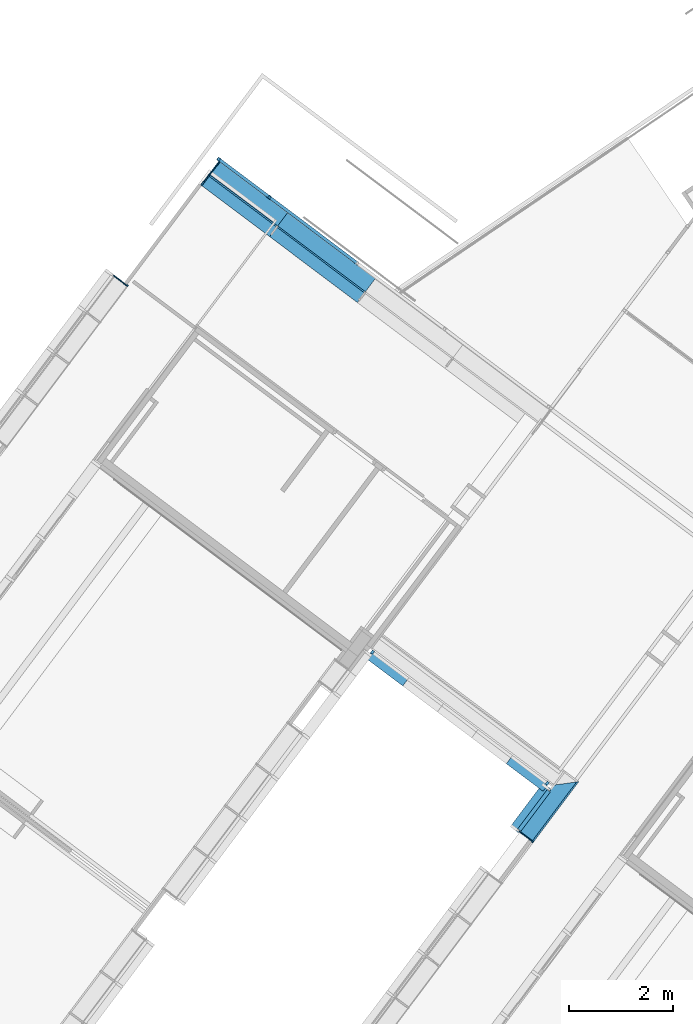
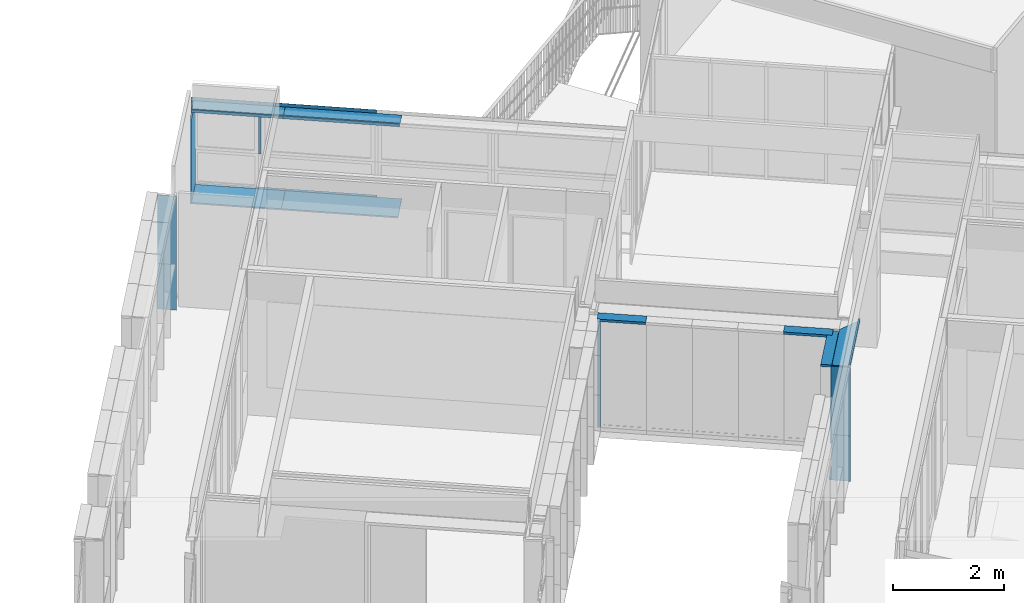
# One storey, part 62 of 243: 22 members, 6 elements without a shape of their own.
"""IFC2X3 building model written with IfcOpenShell, lengths in metres."""

from ifc_helpers import new_model, entity, si_unit, converted_unit, derived_unit, direction, frame, frame_2d, origin, origin_2d_with_axis, place, context, subcontext, project, spatial, polyline, rectangle, outline, extrude, clip, halfspace, source, transform, mapped, material, type_object, type_shapes, element, aggregate, save


model = new_model("IFC2X3")

# Units and contexts
model_context = context("Model", 3, precision=1e-05, world=origin(), true_north=direction((6.123031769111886e-17, 1.0)))
body_context = subcontext(model_context, "Body", "Model", "MODEL_VIEW")
ifc_project = project(units=[si_unit("LENGTHUNIT", "METRE"), si_unit("AREAUNIT", "SQUARE_METRE"), si_unit("VOLUMEUNIT", "CUBIC_METRE"), converted_unit("PLANEANGLEUNIT", "DEGREE", entity("IfcRatioMeasure", 0.017453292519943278), si_unit("PLANEANGLEUNIT", "RADIAN"), dimensions=[0, 0, 0, 0, 0, 0, 0]), si_unit("MASSUNIT", "GRAM", prefix="KILO"), derived_unit("MASSDENSITYUNIT", [(si_unit("MASSUNIT", "GRAM", prefix="KILO"), 1), (si_unit("LENGTHUNIT", "METRE"), -3)]), derived_unit("IONCONCENTRATIONUNIT", [(si_unit("MASSUNIT", "GRAM", prefix="KILO"), 1), (si_unit("LENGTHUNIT", "METRE"), -3)]), derived_unit("MOMENTOFINERTIAUNIT", [(si_unit("LENGTHUNIT", "METRE"), 4)]), si_unit("TIMEUNIT", "SECOND"), si_unit("FREQUENCYUNIT", "HERTZ"), si_unit("THERMODYNAMICTEMPERATUREUNIT", "DEGREE_CELSIUS"), derived_unit("THERMALTRANSMITTANCEUNIT", [(si_unit("MASSUNIT", "GRAM", prefix="KILO"), 1), (si_unit("THERMODYNAMICTEMPERATUREUNIT", "KELVIN"), -1), (si_unit("TIMEUNIT", "SECOND"), -3)]), derived_unit("THERMALCONDUCTANCEUNIT", [(si_unit("MASSUNIT", "GRAM", prefix="KILO"), 1), (si_unit("THERMODYNAMICTEMPERATUREUNIT", "KELVIN"), -1), (si_unit("TIMEUNIT", "SECOND"), -3), (si_unit("LENGTHUNIT", "METRE"), 1)]), derived_unit("VOLUMETRICFLOWRATEUNIT", [(si_unit("LENGTHUNIT", "METRE"), 3), (si_unit("TIMEUNIT", "SECOND"), -1)]), derived_unit("MASSFLOWRATEUNIT", [(si_unit("MASSUNIT", "GRAM", prefix="KILO"), 1), (si_unit("TIMEUNIT", "SECOND"), -1)]), derived_unit("ROTATIONALFREQUENCYUNIT", [(si_unit("TIMEUNIT", "SECOND"), -1)]), si_unit("ELECTRICCURRENTUNIT", "AMPERE"), si_unit("ELECTRICVOLTAGEUNIT", "VOLT"), si_unit("POWERUNIT", "WATT"), si_unit("FORCEUNIT", "NEWTON", prefix="KILO"), si_unit("ILLUMINANCEUNIT", "LUX"), si_unit("LUMINOUSFLUXUNIT", "LUMEN"), si_unit("LUMINOUSINTENSITYUNIT", "CANDELA"), derived_unit("USERDEFINED", [(si_unit("MASSUNIT", "GRAM", prefix="KILO"), -1), (si_unit("LENGTHUNIT", "METRE"), -2), (si_unit("TIMEUNIT", "SECOND"), 3), (si_unit("LUMINOUSFLUXUNIT", "LUMEN"), 1)]), derived_unit("USERDEFINED", [(si_unit("MASSUNIT", "GRAM", prefix="KILO"), 1), (si_unit("TIMEUNIT", "SECOND"), -3), (si_unit("LENGTHUNIT", "METRE"), 3), (si_unit("ELECTRICCURRENTUNIT", "AMPERE"), -2)]), derived_unit("SOUNDPOWERUNIT", [(si_unit("MASSUNIT", "GRAM", prefix="KILO"), 1), (si_unit("TIMEUNIT", "SECOND"), -3), (si_unit("LENGTHUNIT", "METRE"), 2)]), derived_unit("SOUNDPRESSUREUNIT", [(si_unit("MASSUNIT", "GRAM", prefix="KILO"), 1), (si_unit("LENGTHUNIT", "METRE"), -1), (si_unit("TIMEUNIT", "SECOND"), -2)]), derived_unit("LINEARVELOCITYUNIT", [(si_unit("LENGTHUNIT", "METRE"), 1), (si_unit("TIMEUNIT", "SECOND"), -1)]), si_unit("PRESSUREUNIT", "PASCAL"), derived_unit("USERDEFINED", [(si_unit("MASSUNIT", "GRAM", prefix="KILO"), 1), (si_unit("LENGTHUNIT", "METRE"), -2), (si_unit("TIMEUNIT", "SECOND"), -2)]), derived_unit("LINEARFORCEUNIT", [(si_unit("MASSUNIT", "GRAM", prefix="KILO"), 1), (si_unit("TIMEUNIT", "SECOND"), -2)]), derived_unit("PLANARFORCEUNIT", [(si_unit("MASSUNIT", "GRAM", prefix="KILO"), 1), (si_unit("LENGTHUNIT", "METRE"), -1), (si_unit("TIMEUNIT", "SECOND"), -2)]), derived_unit("SPECIFICHEATCAPACITYUNIT", [(si_unit("THERMODYNAMICTEMPERATUREUNIT", "KELVIN"), -1), (si_unit("LENGTHUNIT", "METRE"), 2), (si_unit("TIMEUNIT", "SECOND"), -2)]), derived_unit("HEATINGVALUEUNIT", [(si_unit("LENGTHUNIT", "METRE"), 2), (si_unit("TIMEUNIT", "SECOND"), -2)]), derived_unit("VAPORPERMEABILITYUNIT", [(si_unit("LENGTHUNIT", "METRE"), -1), (si_unit("TIMEUNIT", "SECOND"), 1)]), derived_unit("DYNAMICVISCOSITYUNIT", [(si_unit("MASSUNIT", "GRAM", prefix="KILO"), 1), (si_unit("TIMEUNIT", "SECOND"), -1), (si_unit("LENGTHUNIT", "METRE"), -1)]), derived_unit("THERMALEXPANSIONCOEFFICIENTUNIT", [(si_unit("THERMODYNAMICTEMPERATUREUNIT", "KELVIN"), -1)]), derived_unit("MODULUSOFELASTICITYUNIT", [(si_unit("MASSUNIT", "GRAM", prefix="KILO"), 1), (si_unit("LENGTHUNIT", "METRE"), -1), (si_unit("TIMEUNIT", "SECOND"), -2)]), derived_unit("ISOTHERMALMOISTURECAPACITYUNIT", [(si_unit("LENGTHUNIT", "METRE"), 3), (si_unit("MASSUNIT", "GRAM", prefix="KILO"), -1)]), derived_unit("MOISTUREDIFFUSIVITYUNIT", [(si_unit("TIMEUNIT", "SECOND"), -1), (si_unit("LENGTHUNIT", "METRE"), 2)])], contexts=[model_context])

# Site, building, storey
site_placement = place(None, frame((0.0, 0.0, 235.0), z_axis=(0.0, 0.0, 1.0), x_axis=(-0.7996477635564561, 0.6004693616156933, 0.0)))
site = spatial("IfcSite", under=ifc_project, at=site_placement, Name="Default", CompositionType="ELEMENT")
building_placement = place(site_placement, origin())
building = spatial("IfcBuilding", under=site, at=building_placement, CompositionType="ELEMENT")
storey_placement = place(building_placement, origin())
storey = spatial("IfcBuildingStorey", under=building, at=storey_placement, Name="P0- Escola", CompositionType="ELEMENT", Elevation=0.0)

# Curtain wall, members
curtain_wall_type_1 = type_object("IfcCurtainWallType", Name="Muro cortina:MC- INT- k2", PredefinedType="NOTDEFINED")
curtain_wall_1_placement = place(storey_placement, origin())
curtain_wall_1 = element("IfcCurtainWall", 1, at=curtain_wall_1_placement, inside=storey, type_object=curtain_wall_type_1, Name="Muro cortina:MC- INT- k2", ObjectType="Muro cortina:MC- INT- k2")
ifc_material_1 = material(Name="_Fusta massisa- T1")
member_type_1 = type_object("IfcMemberType", Name="Montante rectangular:MC- Fusta- 35x3 cm- Pati aules- Remat superior", PredefinedType="MULLION", material=ifc_material_1)
shared_shape_1 = source(origin(), body_context, "Body", "SweptSolid", [
    clip(extrude(outline(polyline([(-0.12166666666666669, -0.02666666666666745), (0.21333333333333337, -0.02666666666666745), (0.21333333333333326, -0.006666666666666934), (-0.09166666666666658, -0.006666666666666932), (-0.0916666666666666, 0.03333333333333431), (-0.12166666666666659, 0.03333333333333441), (-0.12166666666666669, -0.02666666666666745)])), frame((-0.033333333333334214, -0.026666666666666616, -1.3699981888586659), z_axis=(0.0, 0.0, 1.0), x_axis=(0.0, -1.0, 0.0)), (0.0, 0.0, 1.0), 1.4649981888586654), halfspace(frame((0.3048, 0.0, 0.0), z_axis=(0.0, -0.7071067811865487, 0.7071067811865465), x_axis=(0.0, -0.7071067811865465, -0.7071067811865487)), False)),
])
type_shapes(member_type_1, [shared_shape_1])
member_1_placement = place(curtain_wall_1_placement, frame((61.74514768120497, -36.785189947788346, 2.565), z_axis=(0.0, -1.0, 0.0), x_axis=(0.0, 0.0, 1.0)))
member_1 = element("IfcMember", 2, at=member_1_placement, type_object=member_type_1, material=ifc_material_1, Name="Montante rectangular:MC- Fusta- 35x3 cm- Pati aules- Remat superior", ObjectType="Montante rectangular:MC- Fusta- 35x3 cm- Pati aules- Remat superior", context=body_context, shape_type="MappedRepresentation", body=[
    mapped(shared_shape_1, transform((0.0, 0.0, 0.0), scale=1.0)),
])
member_type_2 = type_object("IfcMemberType", Name="Montante rectangular:MC- Fusta- 35x3 cm- Pati aules- Remat esquerra", PredefinedType="MULLION", material=ifc_material_1)
shared_shape_2 = source(origin(), body_context, "Body", "SweptSolid", [
    extrude(outline(polyline([(-0.12500000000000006, -0.013333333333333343), (-0.09500000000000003, -0.013333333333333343), (-0.09499999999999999, -0.0033333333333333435), (0.22000000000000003, -0.003333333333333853), (0.22000000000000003, 0.016666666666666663), (-0.12500000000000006, 0.01666666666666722), (-0.12500000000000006, -0.013333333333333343)])), frame((-0.00166666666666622, -0.03000000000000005, -1.0), z_axis=(0.0, 0.0, 1.0), x_axis=(0.0, -1.0, 0.0)), (0.0, 0.0, 1.0), 1.0),
])
type_shapes(member_type_2, [shared_shape_2])
member_2_placement = place(curtain_wall_1_placement, frame((61.74514768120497, -35.41519175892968, 0.0), z_axis=(0.0, 0.0, -1.0), x_axis=(0.0, -1.0, 0.0)))
member_2 = element("IfcMember", 3, at=member_2_placement, type_object=member_type_2, material=ifc_material_1, Name="Montante rectangular:MC- Fusta- 35x3 cm- Pati aules- Remat esquerra", ObjectType="Montante rectangular:MC- Fusta- 35x3 cm- Pati aules- Remat esquerra", context=body_context, shape_type="MappedRepresentation", body=[
    mapped(shared_shape_2, transform((0.0, 0.0, 0.0), scale=1.0)),
])
member_type_3 = type_object("IfcMemberType", Name="Montante rectangular:MC- Fusta- 35x3 cm- Pati aules- Remat esquerra", PredefinedType="MULLION", material=ifc_material_1)
shared_shape_3 = source(origin(), body_context, "Body", "SweptSolid", [
    extrude(outline(polyline([(-0.12500000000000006, -0.013333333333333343), (-0.09500000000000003, -0.013333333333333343), (-0.09499999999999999, -0.0033333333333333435), (0.22000000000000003, -0.003333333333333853), (0.22000000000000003, 0.016666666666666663), (-0.12500000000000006, 0.01666666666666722), (-0.12500000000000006, -0.013333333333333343)])), frame((-0.00166666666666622, -0.03000000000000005, -1.504999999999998), z_axis=(0.0, 0.0, 1.0), x_axis=(0.0, -1.0, 0.0)), (0.0, 0.0, 1.0), 1.504999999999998),
])
type_shapes(member_type_3, [shared_shape_3])
member_3_placement = place(curtain_wall_1_placement, frame((61.74514768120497, -35.41519175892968, 1.0), z_axis=(0.0, 0.0, -1.0), x_axis=(0.0, -1.0, 0.0)))
member_3 = element("IfcMember", 4, at=member_3_placement, type_object=member_type_3, material=ifc_material_1, Name="Montante rectangular:MC- Fusta- 35x3 cm- Pati aules- Remat esquerra", ObjectType="Montante rectangular:MC- Fusta- 35x3 cm- Pati aules- Remat esquerra", context=body_context, shape_type="MappedRepresentation", body=[
    mapped(shared_shape_3, transform((0.0, 0.0, 0.0), scale=1.0)),
])
aggregate(curtain_wall_1, [member_1, member_2, member_3])

curtain_wall_2_placement = place(storey_placement, origin())
curtain_wall_2 = element("IfcCurtainWall", 5, at=curtain_wall_2_placement, inside=storey, type_object=curtain_wall_type_1, Name="Muro cortina:MC- INT- k2", ObjectType="Muro cortina:MC- INT- k2")
member_type_4 = type_object("IfcMemberType", Name="Montante rectangular:MC- Fusta- 35x3 cm- Pati aules- Remat dreta", PredefinedType="MULLION", material=ifc_material_1)
shared_shape_4 = source(origin(), body_context, "Body", "SweptSolid", [
    extrude(outline(polyline([(-0.12500000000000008, -0.01666666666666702), (0.22, -0.01666666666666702), (0.22000000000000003, 0.003333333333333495), (-0.09499999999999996, 0.003333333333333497), (-0.09499999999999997, 0.013333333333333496), (-0.12500000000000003, 0.013333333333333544), (-0.12500000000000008, -0.01666666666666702)])), frame((-0.013333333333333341, -0.03000000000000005, -1.504999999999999), z_axis=(0.0, 0.0, 1.0), x_axis=(0.0, -1.0, 0.0)), (0.0, 0.0, 1.0), 1.504999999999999),
])
type_shapes(member_type_4, [shared_shape_4])
member_4_placement = place(curtain_wall_2_placement, frame((74.44514768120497, -39.31519175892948, 1.0), z_axis=(0.0, 0.0, -1.0), x_axis=(0.0, -1.0, 0.0)))
member_4 = element("IfcMember", 6, at=member_4_placement, type_object=member_type_4, material=ifc_material_1, Name="Montante rectangular:MC- Fusta- 35x3 cm- Pati aules- Remat dreta", ObjectType="Montante rectangular:MC- Fusta- 35x3 cm- Pati aules- Remat dreta", context=body_context, shape_type="MappedRepresentation", body=[
    mapped(shared_shape_4, transform((0.0, 0.0, 0.0), scale=1.0)),
])
member_type_5 = type_object("IfcMemberType", Name="Montante rectangular:MC- Fusta- 35x3 cm- Pati aules- Remat dreta", PredefinedType="MULLION", material=ifc_material_1)
shared_shape_5 = source(origin(), body_context, "Body", "SweptSolid", [
    extrude(outline(polyline([(-0.12500000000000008, -0.01666666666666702), (0.22, -0.01666666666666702), (0.22000000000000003, 0.003333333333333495), (-0.09499999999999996, 0.003333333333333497), (-0.09499999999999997, 0.013333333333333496), (-0.12500000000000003, 0.013333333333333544), (-0.12500000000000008, -0.01666666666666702)])), frame((-0.013333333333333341, -0.03000000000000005, -1.0), z_axis=(0.0, 0.0, 1.0), x_axis=(0.0, -1.0, 0.0)), (0.0, 0.0, 1.0), 1.0),
])
type_shapes(member_type_5, [shared_shape_5])
member_5_placement = place(curtain_wall_2_placement, frame((74.44514768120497, -39.31519175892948, 0.0), z_axis=(0.0, 0.0, -1.0), x_axis=(0.0, -1.0, 0.0)))
member_5 = element("IfcMember", 7, at=member_5_placement, type_object=member_type_5, material=ifc_material_1, Name="Montante rectangular:MC- Fusta- 35x3 cm- Pati aules- Remat dreta", ObjectType="Montante rectangular:MC- Fusta- 35x3 cm- Pati aules- Remat dreta", context=body_context, shape_type="MappedRepresentation", body=[
    mapped(shared_shape_5, transform((0.0, 0.0, 0.0), scale=1.0)),
])
aggregate(curtain_wall_2, [member_4, member_5])

curtain_wall_type_2 = type_object("IfcCurtainWallType", Name="Muro cortina:MC- EXT- MC5", PredefinedType="NOTDEFINED")
curtain_wall_3_placement = place(storey_placement, origin())
curtain_wall_3 = element("IfcCurtainWall", 8, at=curtain_wall_3_placement, inside=storey, type_object=curtain_wall_type_2, Name="Muro cortina:MC- EXT- MC5", ObjectType="Muro cortina:MC- EXT- MC5")
ifc_material_2 = material(Name="_Alumini- T1- Perfil")
member_type_6 = type_object("IfcMemberType", Name="Montante rectangular:MC- Alu- 140x52,5 cm- Fa patis- Superior", PredefinedType="MULLION", material=ifc_material_2)
shared_shape_6 = source(origin(), body_context, "Body", "SweptSolid", [
    extrude(outline(polyline([(-0.026333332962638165, -0.021249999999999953), (0.11366666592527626, -0.021249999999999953), (0.11366666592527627, 0.031250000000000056), (-0.08733333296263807, 0.03125000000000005), (-0.0873333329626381, -0.010000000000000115), (-0.026333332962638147, -0.010000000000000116), (-0.026333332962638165, -0.021249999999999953)])), frame((-0.031250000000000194, -0.02733333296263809, -1.0524481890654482), z_axis=(0.0, 0.0, 1.0), x_axis=(0.0, -1.0, 0.0)), (0.0, 0.0, 1.0), 1.0524481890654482),
])
type_shapes(member_type_6, [shared_shape_6])
member_6_placement = place(curtain_wall_3_placement, frame((62.04514768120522, -36.44138994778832, 2.545), z_axis=(0.0, -1.0, 0.0), x_axis=(0.0, 0.0, 1.0)))
member_6 = element("IfcMember", 9, at=member_6_placement, type_object=member_type_6, material=ifc_material_2, Name="Montante rectangular:MC- Alu- 140x52,5 cm- Fa patis- Superior", ObjectType="Montante rectangular:MC- Alu- 140x52,5 cm- Fa patis- Superior", context=body_context, shape_type="MappedRepresentation", body=[
    mapped(shared_shape_6, transform((0.0, 0.0, 0.0), scale=1.0)),
])
member_type_7 = type_object("IfcMemberType", Name="Montante rectangular:MC- Alu- 140x52,5 cm- Fa patis- inferior porta", PredefinedType="MULLION", material=ifc_material_2)
shared_shape_7 = source(origin(), body_context, "Body", "SweptSolid", [
    extrude(rectangle(XDim=0.07629999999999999, YDim=0.04, at=origin_2d_with_axis()), frame((-0.020000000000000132, 0.03815000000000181, -0.9474481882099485), z_axis=(0.0, 0.0, 1.0), x_axis=(0.0, -1.0, 0.0)), (0.0, 0.0, 1.0), 0.947448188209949),
])
type_shapes(member_type_7, [shared_shape_7])
member_7_placement = place(curtain_wall_3_placement, frame((62.04514768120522, -35.44144175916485, -0.02), z_axis=(0.0, 1.0, 0.0), x_axis=(0.0, 0.0, -1.0)))
member_7 = element("IfcMember", 10, at=member_7_placement, type_object=member_type_7, material=ifc_material_2, Name="Montante rectangular:MC- Alu- 140x52,5 cm- Fa patis- inferior porta", ObjectType="Montante rectangular:MC- Alu- 140x52,5 cm- Fa patis- inferior porta", context=body_context, shape_type="MappedRepresentation", body=[
    mapped(shared_shape_7, transform((0.0, 0.0, 0.0), scale=1.0)),
])
aggregate(curtain_wall_3, [member_6, member_7])

curtain_wall_type_3 = type_object("IfcCurtainWallType", Name="Muro cortina:MC- EXT- MC6", PredefinedType="NOTDEFINED")
curtain_wall_4_placement = place(storey_placement, origin())
curtain_wall_4 = element("IfcCurtainWall", 11, at=curtain_wall_4_placement, inside=storey, type_object=curtain_wall_type_3, Name="Muro cortina:MC- EXT- MC6", ObjectType="Muro cortina:MC- EXT- MC6")
member_type_8 = type_object("IfcMemberType", Name="Montante rectangular:MC- Alu- 140x52,5 cm- Fa pista- Superior", PredefinedType="MULLION", material=ifc_material_2)
shared_shape_8 = source(origin(), body_context, "Body", "SweptSolid", [
    extrude(outline(polyline([(-0.03933333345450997, -0.04916666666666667), (0.02066666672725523, -0.04916666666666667), (0.020666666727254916, 0.048333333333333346), (0.018666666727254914, 0.04833333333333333), (0.018666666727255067, 0.00083333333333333), (-0.03933333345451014, 0.00083333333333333), (-0.03933333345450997, -0.04916666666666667)])), frame((-0.048333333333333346, -0.03933333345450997, -2.117000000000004), z_axis=(0.0, 0.0, 1.0), x_axis=(0.0, -1.0, 0.0)), (0.0, 0.0, 1.0), 2.117000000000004),
])
type_shapes(member_type_8, [shared_shape_8])
member_8_placement = place(curtain_wall_4_placement, frame((73.19855280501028, -42.340191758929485, 2.6000000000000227), z_axis=(1.0, 0.0, 0.0), x_axis=(0.0, 0.0, 1.0)))
member_8 = element("IfcMember", 12, at=member_8_placement, type_object=member_type_8, material=ifc_material_2, Name="Montante rectangular:MC- Alu- 140x52,5 cm- Fa pista- Superior", ObjectType="Montante rectangular:MC- Alu- 140x52,5 cm- Fa pista- Superior", context=body_context, shape_type="MappedRepresentation", body=[
    mapped(shared_shape_8, transform((0.0, 0.0, 0.0), scale=1.0)),
])
member_type_9 = type_object("IfcMemberType", Name="Montante rectangular:MC- Alu- 52x80 cm- Fa pista- inferior", PredefinedType="MULLION", material=ifc_material_2)
shared_shape_9 = source(origin(), body_context, "Body", "SweptSolid", [
    extrude(rectangle(XDim=0.06000000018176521, YDim=0.085, at=origin_2d_with_axis()), frame((-0.0425, -0.030000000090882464, -2.117000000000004), z_axis=(0.0, 0.0, 1.0), x_axis=(0.0, -1.0, 0.0)), (0.0, 0.0, 1.0), 2.117000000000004),
])
type_shapes(member_type_9, [shared_shape_9])
member_9_placement = place(curtain_wall_4_placement, frame((71.08155280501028, -42.340191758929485, 0.6000000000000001), z_axis=(-1.0, 0.0, 0.0), x_axis=(0.0, 0.0, -1.0)))
member_9 = element("IfcMember", 13, at=member_9_placement, type_object=member_type_9, material=ifc_material_2, Name="Montante rectangular:MC- Alu- 52x80 cm- Fa pista- inferior", ObjectType="Montante rectangular:MC- Alu- 52x80 cm- Fa pista- inferior", context=body_context, shape_type="MappedRepresentation", body=[
    mapped(shared_shape_9, transform((0.0, 0.0, 0.0), scale=1.0)),
])
member_type_10 = type_object("IfcMemberType", Name="Montante rectangular:MC- Alu- 50x60 cm- Fa pista- Centre", PredefinedType="MULLION", material=ifc_material_2)
shared_shape_10 = source(origin(), body_context, "Body", "SweptSolid", [
    extrude(rectangle(XDim=0.06000000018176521, YDim=0.05, at=frame_2d((3.469446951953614e-18, 0.0), x_axis=(1.0, 0.0))), frame((-0.025, -0.030000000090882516, -1.0475000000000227), z_axis=(0.0, 0.0, 1.0), x_axis=(0.0, -1.0, 0.0)), (0.0, 0.0, 1.0), 1.0475000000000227),
])
type_shapes(member_type_10, [shared_shape_10])
member_10_placement = place(curtain_wall_4_placement, frame((74.44514768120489, -42.34019175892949, 1.455), z_axis=(0.0, 0.0, -1.0), x_axis=(1.0, 0.0, 0.0)))
member_10 = element("IfcMember", 14, at=member_10_placement, type_object=member_type_10, material=ifc_material_2, Name="Montante rectangular:MC- Alu- 50x60 cm- Fa pista- Centre", ObjectType="Montante rectangular:MC- Alu- 50x60 cm- Fa pista- Centre", context=body_context, shape_type="MappedRepresentation", body=[
    mapped(shared_shape_10, transform((0.0, 0.0, 0.0), scale=1.0)),
])
member_type_11 = type_object("IfcMemberType", Name="Montante rectangular:MC- Alu- 50x60 cm- Fa pista- Centre", PredefinedType="MULLION", material=ifc_material_2)
shared_shape_11 = source(origin(), body_context, "Body", "SweptSolid", [
    extrude(rectangle(XDim=0.0600000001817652, YDim=0.05, at=frame_2d((8.673617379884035e-18, 0.0), x_axis=(1.0, 0.0))), frame((0.0, -0.030000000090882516, -1.0475000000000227), z_axis=(0.0, 0.0, 1.0), x_axis=(0.0, -1.0, 0.0)), (0.0, 0.0, 1.0), 1.0475000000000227),
])
type_shapes(member_type_11, [shared_shape_11])
member_11_placement = place(curtain_wall_4_placement, frame((73.19855280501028, -42.340191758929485, 1.455), z_axis=(0.0, 0.0, -1.0), x_axis=(1.0, 0.0, 0.0)))
member_11 = element("IfcMember", 15, at=member_11_placement, type_object=member_type_11, material=ifc_material_2, Name="Montante rectangular:MC- Alu- 50x60 cm- Fa pista- Centre", ObjectType="Montante rectangular:MC- Alu- 50x60 cm- Fa pista- Centre", context=body_context, shape_type="MappedRepresentation", body=[
    mapped(shared_shape_11, transform((0.0, 0.0, 0.0), scale=1.0)),
])
member_type_12 = type_object("IfcMemberType", Name="Montante rectangular:MC- Alu- 140x52,5 cm- Fa pista- Superior", PredefinedType="MULLION", material=ifc_material_2)
shared_shape_12 = source(origin(), body_context, "Body", "SweptSolid", [
    extrude(outline(polyline([(-0.03933333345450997, -0.04916666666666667), (0.02066666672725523, -0.04916666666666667), (0.020666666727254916, 0.048333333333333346), (0.018666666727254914, 0.04833333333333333), (0.018666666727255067, 0.00083333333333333), (-0.03933333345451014, 0.00083333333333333), (-0.03933333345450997, -0.04916666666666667)])), frame((-0.048333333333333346, -0.03933333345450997, -1.2465948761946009), z_axis=(0.0, 0.0, 1.0), x_axis=(0.0, -1.0, 0.0)), (0.0, 0.0, 1.0), 1.2465948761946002),
])
type_shapes(member_type_12, [shared_shape_12])
member_12_placement = place(curtain_wall_4_placement, frame((74.44514768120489, -42.34019175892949, 2.6000000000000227), z_axis=(1.0, 0.0, 0.0), x_axis=(0.0, 0.0, 1.0)))
member_12 = element("IfcMember", 16, at=member_12_placement, type_object=member_type_12, material=ifc_material_2, Name="Montante rectangular:MC- Alu- 140x52,5 cm- Fa pista- Superior", ObjectType="Montante rectangular:MC- Alu- 140x52,5 cm- Fa pista- Superior", context=body_context, shape_type="MappedRepresentation", body=[
    mapped(shared_shape_12, transform((0.0, 0.0, 0.0), scale=1.0)),
])
member_type_13 = type_object("IfcMemberType", Name="Montante rectangular:MC- Alu- 52x80 cm- Fa pista- inferior", PredefinedType="MULLION", material=ifc_material_2)
shared_shape_13 = source(origin(), body_context, "Body", "SweptSolid", [
    extrude(rectangle(XDim=0.06000000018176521, YDim=0.085, at=origin_2d_with_axis()), frame((-0.0425, -0.030000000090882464, -1.2465948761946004), z_axis=(0.0, 0.0, 1.0), x_axis=(0.0, -1.0, 0.0)), (0.0, 0.0, 1.0), 1.2465948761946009),
])
type_shapes(member_type_13, [shared_shape_13])
member_13_placement = place(curtain_wall_4_placement, frame((73.19855280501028, -42.340191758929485, 0.6000000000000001), z_axis=(-1.0, 0.0, 0.0), x_axis=(0.0, 0.0, -1.0)))
member_13 = element("IfcMember", 17, at=member_13_placement, type_object=member_type_13, material=ifc_material_2, Name="Montante rectangular:MC- Alu- 52x80 cm- Fa pista- inferior", ObjectType="Montante rectangular:MC- Alu- 52x80 cm- Fa pista- inferior", context=body_context, shape_type="MappedRepresentation", body=[
    mapped(shared_shape_13, transform((0.0, 0.0, 0.0), scale=1.0)),
])
aggregate(curtain_wall_4, [member_12, member_8, member_13, member_9, member_10, member_11])

curtain_wall_type_4 = type_object("IfcCurtainWallType", PredefinedType="NOTDEFINED")
curtain_wall_5_placement = place(storey_placement, origin())
curtain_wall_5 = element("IfcCurtainWall", 18, at=curtain_wall_5_placement, inside=storey, type_object=curtain_wall_type_4)
member_type_14 = type_object("IfcMemberType", Name="Montante rectangular:MC- Fusta- 34x3 cm- Fa Pista- Remat Superior", PredefinedType="MULLION", material=ifc_material_1)
shared_shape_14 = source(origin(), body_context, "Body", "SweptSolid", [
    extrude(outline(polyline([(-0.12500000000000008, -0.02666666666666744), (0.22, -0.02666666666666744), (0.21999999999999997, -0.006666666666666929), (-0.0949999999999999, -0.0066666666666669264), (-0.09499999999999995, 0.03333333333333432), (-0.12499999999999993, 0.03333333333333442), (-0.12500000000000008, -0.02666666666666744)])), frame((-0.033333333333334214, -0.029999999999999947, -1.661655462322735), z_axis=(0.0, 0.0, 1.0), x_axis=(0.0, -1.0, 0.0)), (0.0, 0.0, 1.0), 1.6616554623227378),
])
type_shapes(member_type_14, [shared_shape_14])
member_14_placement = place(curtain_wall_5_placement, frame((72.73648814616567, -42.030191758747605, 2.565), z_axis=(-1.0, 0.0, 0.0), x_axis=(0.0, 0.0, 1.0)))
member_14 = element("IfcMember", 19, at=member_14_placement, type_object=member_type_14, material=ifc_material_1, Name="Montante rectangular:MC- Fusta- 34x3 cm- Fa Pista- Remat Superior", ObjectType="Montante rectangular:MC- Fusta- 34x3 cm- Fa Pista- Remat Superior", context=body_context, shape_type="MappedRepresentation", body=[
    mapped(shared_shape_14, transform((0.0, 0.0, 0.0), scale=1.0)),
])
member_type_15 = type_object("IfcMemberType", Name="Montante rectangular:MC- Fusta- 34x3 cm- Fa Pista- Remat Inferior", PredefinedType="MULLION", material=ifc_material_1)
shared_shape_15 = source(origin(), body_context, "Body", "SweptSolid", [
    extrude(outline(polyline([(-0.2783333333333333, -0.015000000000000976), (-0.018333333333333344, -0.015000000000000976), (-0.018333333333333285, 0.0), (0.2966666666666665, 0.0), (0.29666666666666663, 0.014999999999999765), (-0.27833333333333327, 0.015000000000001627), (-0.2783333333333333, -0.015000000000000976)])), frame((0.015000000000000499, 0.046666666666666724, -2.1170000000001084), z_axis=(0.0, 0.0, 1.0), x_axis=(0.0, -1.0, 0.0)), (0.0, 0.0, 1.0), 2.117000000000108),
])
type_shapes(member_type_15, [shared_shape_15])
member_15_placement = place(curtain_wall_5_placement, frame((70.61948814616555, -42.03019175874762, 0.6550000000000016), z_axis=(-1.0, 0.0, 0.0), x_axis=(0.0, 0.0, 1.0)))
member_15 = element("IfcMember", 20, at=member_15_placement, type_object=member_type_15, material=ifc_material_1, Name="Montante rectangular:MC- Fusta- 34x3 cm- Fa Pista- Remat Inferior", ObjectType="Montante rectangular:MC- Fusta- 34x3 cm- Fa Pista- Remat Inferior", context=body_context, shape_type="MappedRepresentation", body=[
    mapped(shared_shape_15, transform((0.0, 0.0, 0.0), scale=1.0)),
])
member_type_16 = type_object("IfcMemberType", Name="Montante rectangular:MC- Fusta- 34x3 cm- Fa Pista- Remat Superior", PredefinedType="MULLION", material=ifc_material_1)
shared_shape_16 = source(origin(), body_context, "Body", "SweptSolid", [
    extrude(outline(polyline([(-0.12500000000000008, -0.02666666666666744), (0.22, -0.02666666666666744), (0.21999999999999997, -0.006666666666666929), (-0.0949999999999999, -0.0066666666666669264), (-0.09499999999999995, 0.03333333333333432), (-0.12499999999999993, 0.03333333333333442), (-0.12500000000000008, -0.02666666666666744)])), frame((-0.033333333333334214, -0.029999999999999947, -2.1169999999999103), z_axis=(0.0, 0.0, 1.0), x_axis=(0.0, -1.0, 0.0)), (0.0, 0.0, 1.0), 2.116999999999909),
])
type_shapes(member_type_16, [shared_shape_16])
member_16_placement = place(curtain_wall_5_placement, frame((70.61948814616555, -42.03019175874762, 2.565), z_axis=(-1.0, 0.0, 0.0), x_axis=(0.0, 0.0, 1.0)))
member_16 = element("IfcMember", 21, at=member_16_placement, type_object=member_type_16, material=ifc_material_1, Name="Montante rectangular:MC- Fusta- 34x3 cm- Fa Pista- Remat Superior", ObjectType="Montante rectangular:MC- Fusta- 34x3 cm- Fa Pista- Remat Superior", context=body_context, shape_type="MappedRepresentation", body=[
    mapped(shared_shape_16, transform((0.0, 0.0, 0.0), scale=1.0)),
])
member_type_17 = type_object("IfcMemberType", Name="Montante rectangular:MC- Fusta- 34x3 cm- Fa Pista- Remat Inferior", PredefinedType="MULLION", material=ifc_material_1)
shared_shape_17 = source(origin(), body_context, "Body", "SweptSolid", [
    extrude(outline(polyline([(-0.2783333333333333, -0.015000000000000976), (-0.018333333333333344, -0.015000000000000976), (-0.018333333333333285, 0.0), (0.2966666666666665, 0.0), (0.29666666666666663, 0.014999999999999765), (-0.27833333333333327, 0.015000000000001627), (-0.2783333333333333, -0.015000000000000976)])), frame((0.015000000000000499, 0.046666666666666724, -1.6316554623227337), z_axis=(0.0, 0.0, 1.0), x_axis=(0.0, -1.0, 0.0)), (0.0, 0.0, 1.0), 1.6316554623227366),
])
type_shapes(member_type_17, [shared_shape_17])
member_17_placement = place(curtain_wall_5_placement, frame((72.73648814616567, -42.030191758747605, 0.6550000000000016), z_axis=(-1.0, 0.0, 0.0), x_axis=(0.0, 0.0, 1.0)))
member_17 = element("IfcMember", 22, at=member_17_placement, type_object=member_type_17, material=ifc_material_1, Name="Montante rectangular:MC- Fusta- 34x3 cm- Fa Pista- Remat Inferior", ObjectType="Montante rectangular:MC- Fusta- 34x3 cm- Fa Pista- Remat Inferior", context=body_context, shape_type="MappedRepresentation", body=[
    mapped(shared_shape_17, transform((0.0, 0.0, 0.0), scale=1.0)),
])
member_type_18 = type_object("IfcMemberType", Name="Montante rectangular:MC- Fusta- 34x3 cm- Fa Pista- Remat Inferior", PredefinedType="MULLION", material=ifc_material_1)
shared_shape_18 = source(origin(), body_context, "Body", "SweptSolid", [
    extrude(outline(polyline([(-0.2783333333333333, -0.015000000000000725), (0.2966666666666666, -0.015000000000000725), (0.2966666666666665, 0.0), (-0.01833333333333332, 0.0), (-0.018333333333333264, 0.015000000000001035), (-0.27833333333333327, 0.015000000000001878), (-0.2783333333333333, -0.015000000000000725)])), frame((-0.015000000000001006, 0.046666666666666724, -1.849999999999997), z_axis=(0.0, 0.0, 1.0), x_axis=(0.0, -1.0, 0.0)), (0.0, 0.0, 1.0), 1.849999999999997),
])
type_shapes(member_type_18, [shared_shape_18])
member_18_placement = place(curtain_wall_5_placement, frame((74.3981436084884, -42.0301917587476, 2.5049999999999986)))
member_18 = element("IfcMember", 23, at=member_18_placement, type_object=member_type_18, material=ifc_material_1, Name="Montante rectangular:MC- Fusta- 34x3 cm- Fa Pista- Remat Inferior", ObjectType="Montante rectangular:MC- Fusta- 34x3 cm- Fa Pista- Remat Inferior", context=body_context, shape_type="MappedRepresentation", body=[
    mapped(shared_shape_18, transform((0.0, 0.0, 0.0), scale=1.0)),
])
aggregate(curtain_wall_5, [member_14, member_15, member_16, member_17, member_18])

curtain_wall_type_5 = type_object("IfcCurtainWallType", PredefinedType="NOTDEFINED")
curtain_wall_6_placement = place(storey_placement, origin())
curtain_wall_6 = element("IfcCurtainWall", 24, at=curtain_wall_6_placement, inside=storey, type_object=curtain_wall_type_5)
member_type_19 = type_object("IfcMemberType", Name="Montante rectangular:MC- Alu- 140x52,5 cm- Fa patis- Superior", PredefinedType="MULLION", material=ifc_material_2)
shared_shape_19 = source(origin(), body_context, "Body", "SweptSolid", [
    extrude(outline(polyline([(-0.026333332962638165, -0.021249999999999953), (0.11366666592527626, -0.021249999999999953), (0.11366666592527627, 0.031250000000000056), (-0.08733333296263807, 0.03125000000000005), (-0.0873333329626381, -0.010000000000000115), (-0.026333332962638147, -0.010000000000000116), (-0.026333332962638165, -0.021249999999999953)])), frame((-0.031250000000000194, -0.02733333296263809, -0.885800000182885), z_axis=(0.0, 0.0, 1.0), x_axis=(0.0, -1.0, 0.0)), (0.0, 0.0, 1.0), 0.8858000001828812),
])
type_shapes(member_type_19, [shared_shape_19])
member_19_placement = place(curtain_wall_6_placement, frame((66.36014768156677, -36.455189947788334, 2.545), z_axis=(1.0, 0.0, 0.0), x_axis=(0.0, 0.0, 1.0)))
member_19 = element("IfcMember", 25, at=member_19_placement, type_object=member_type_19, material=ifc_material_2, Name="Montante rectangular:MC- Alu- 140x52,5 cm- Fa patis- Superior", ObjectType="Montante rectangular:MC- Alu- 140x52,5 cm- Fa patis- Superior", context=body_context, shape_type="MappedRepresentation", body=[
    mapped(shared_shape_19, transform((0.0, 0.0, 0.0), scale=1.0)),
])
member_type_20 = type_object("IfcMemberType", Name="Montante rectangular:MC- Alu- 65x52,5 cm- Fa Pati- Porta", PredefinedType="MULLION", material=ifc_material_2)
shared_shape_20 = source(origin(), body_context, "Body", "SweptSolid", [
    extrude(rectangle(XDim=0.06500000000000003, YDim=0.053000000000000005, at=frame_2d((0.0, 3.469446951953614e-18), x_axis=(1.0, 0.0))), frame((-0.026500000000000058, 0.03249999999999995, -2.4274999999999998), z_axis=(0.0, 0.0, 1.0), x_axis=(0.0, -1.0, 0.0)), (0.0, 0.0, 1.0), 2.4274999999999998),
])
type_shapes(member_type_20, [shared_shape_20])
member_20_placement = place(curtain_wall_6_placement, frame((66.36014768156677, -36.455189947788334, 0.06499999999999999), z_axis=(0.0, 0.0, -1.0), x_axis=(1.0, 0.0, 0.0)))
member_20 = element("IfcMember", 26, at=member_20_placement, type_object=member_type_20, material=ifc_material_2, Name="Montante rectangular:MC- Alu- 65x52,5 cm- Fa Pati- Porta", ObjectType="Montante rectangular:MC- Alu- 65x52,5 cm- Fa Pati- Porta", context=body_context, shape_type="MappedRepresentation", body=[
    mapped(shared_shape_20, transform((0.0, 0.0, 0.0), scale=1.0)),
])
member_type_21 = type_object("IfcMemberType", Name="Montante rectangular:MC- Alu- 65x52,5 cm- Fa Pati- Porta", PredefinedType="MULLION", material=ifc_material_2)
shared_shape_21 = source(origin(), body_context, "Body", "SweptSolid", [
    extrude(rectangle(XDim=0.06500000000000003, YDim=0.05300000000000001, at=frame_2d((-6.938893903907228e-18, 0.0), x_axis=(1.0, 0.0))), frame((-0.026499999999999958, 0.032499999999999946, -2.4274999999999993), z_axis=(0.0, 0.0, 1.0), x_axis=(0.0, -1.0, 0.0)), (0.0, 0.0, 1.0), 2.4274999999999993),
])
type_shapes(member_type_21, [shared_shape_21])
member_21_placement = place(curtain_wall_6_placement, frame((62.09014768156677, -36.45518994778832, 2.4924999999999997), z_axis=(0.0, 0.0, 1.0), x_axis=(-1.0, 0.0, 0.0)))
member_21 = element("IfcMember", 27, at=member_21_placement, type_object=member_type_21, material=ifc_material_2, Name="Montante rectangular:MC- Alu- 65x52,5 cm- Fa Pati- Porta", ObjectType="Montante rectangular:MC- Alu- 65x52,5 cm- Fa Pati- Porta", context=body_context, shape_type="MappedRepresentation", body=[
    mapped(shared_shape_21, transform((0.0, 0.0, 0.0), scale=1.0)),
])
member_type_22 = type_object("IfcMemberType", Name="Montante rectangular:MC- Alu- 140x52,5 cm- Fa patis- Superior", PredefinedType="MULLION", material=ifc_material_2)
shared_shape_22 = source(origin(), body_context, "Body", "SweptSolid", [
    extrude(outline(polyline([(-0.026333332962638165, -0.021249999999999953), (0.11366666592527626, -0.021249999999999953), (0.11366666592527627, 0.031250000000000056), (-0.08733333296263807, 0.03125000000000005), (-0.0873333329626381, -0.010000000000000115), (-0.026333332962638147, -0.010000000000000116), (-0.026333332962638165, -0.021249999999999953)])), frame((-0.031250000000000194, -0.02733333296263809, -0.8858000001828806), z_axis=(0.0, 0.0, 1.0), x_axis=(0.0, -1.0, 0.0)), (0.0, 0.0, 1.0), 0.8858000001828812),
])
type_shapes(member_type_22, [shared_shape_22])
member_22_placement = place(curtain_wall_6_placement, frame((62.97594768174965, -36.45518994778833, 2.545), z_axis=(1.0, 0.0, 0.0), x_axis=(0.0, 0.0, 1.0)))
member_22 = element("IfcMember", 28, at=member_22_placement, type_object=member_type_22, material=ifc_material_2, Name="Montante rectangular:MC- Alu- 140x52,5 cm- Fa patis- Superior", ObjectType="Montante rectangular:MC- Alu- 140x52,5 cm- Fa patis- Superior", context=body_context, shape_type="MappedRepresentation", body=[
    mapped(shared_shape_22, transform((0.0, 0.0, 0.0), scale=1.0)),
])
aggregate(curtain_wall_6, [member_19, member_20, member_21, member_22])

save(model, "model.ifc")
